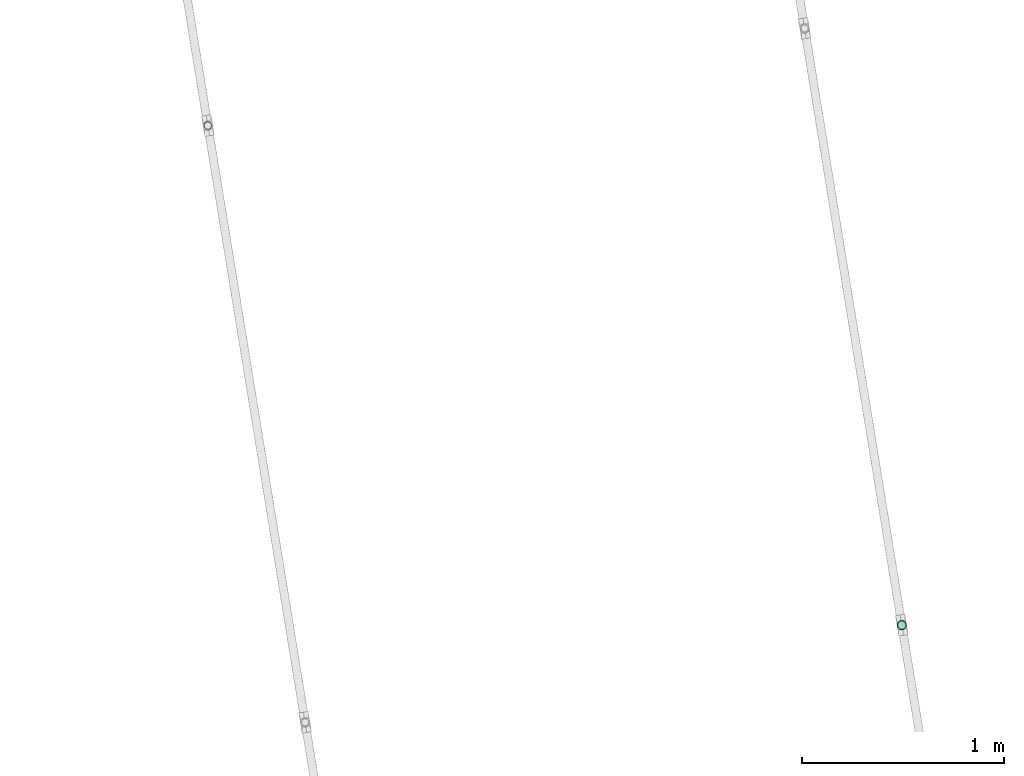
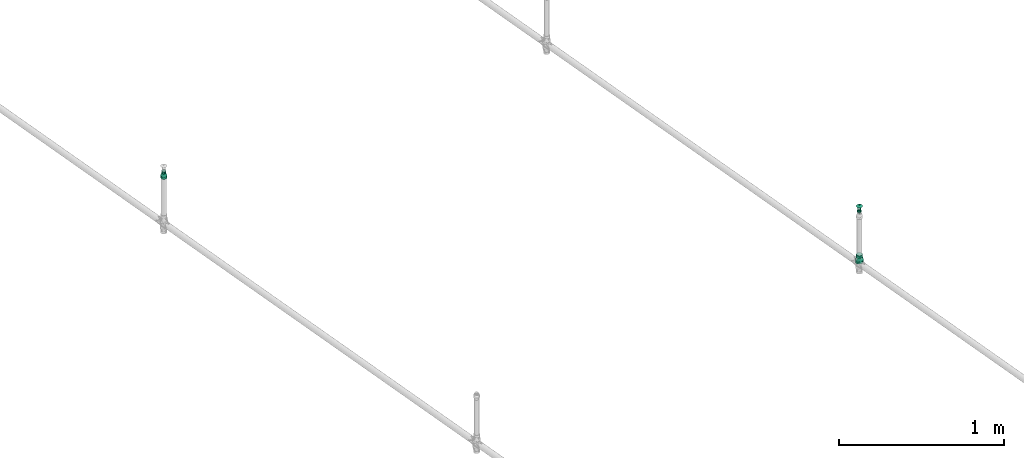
# One storey, part 42 of 56: 2 flow fittings, 1 flow terminal.
"""IFC2X3 building model written with IfcOpenShell, lengths in millimetres."""

from ifc_helpers import new_model, entity, si_unit, converted_unit, derived_unit, direction, frame, origin, origin_with_axes, place, context, subcontext, project, spatial, faceted_brep, source, transform, mapped, material, type_object, element, save


model = new_model("IFC2X3")

# Units and contexts
model_context = context("Model", 3, precision=0.01, world=origin(), true_north=direction((6.12323399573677e-17, 1.0)))
plan_context = context("Plan", 3, precision=1e-05, world=origin_with_axes())
body_context = subcontext(model_context, "Body", "Model", "MODEL_VIEW")
ifc_project = project(units=[converted_unit("PLANEANGLEUNIT", "DEGREE", entity("IfcPositiveLengthMeasure", 0.0174532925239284), si_unit("PLANEANGLEUNIT", "RADIAN"), dimensions=[0, 0, 0, 0, 0, 0, 0]), si_unit("AREAUNIT", "SQUARE_METRE"), si_unit("LENGTHUNIT", "METRE", prefix="MILLI"), si_unit("MASSUNIT", "GRAM", prefix="KILO"), si_unit("POWERUNIT", "WATT"), si_unit("PRESSUREUNIT", "PASCAL", prefix="KILO"), si_unit("FORCEUNIT", "NEWTON", prefix="KILO"), si_unit("ELECTRICVOLTAGEUNIT", "VOLT"), si_unit("ELECTRICCURRENTUNIT", "AMPERE"), si_unit("THERMODYNAMICTEMPERATUREUNIT", "DEGREE_CELSIUS"), si_unit("TIMEUNIT", "SECOND"), si_unit("VOLUMEUNIT", "CUBIC_METRE"), derived_unit("LINEARVELOCITYUNIT", [(si_unit("LENGTHUNIT", "METRE"), 1), (si_unit("TIMEUNIT", "SECOND"), -1)]), derived_unit("VOLUMETRICFLOWRATEUNIT", [(si_unit("VOLUMEUNIT", "CUBIC_METRE"), 1), (si_unit("TIMEUNIT", "SECOND"), -1)]), derived_unit("THERMALTRANSMITTANCEUNIT", [(si_unit("POWERUNIT", "WATT"), 1), (si_unit("THERMODYNAMICTEMPERATUREUNIT", "KELVIN"), -1), (si_unit("AREAUNIT", "SQUARE_METRE"), -1)]), derived_unit("SOUNDPRESSUREUNIT", [(si_unit("PRESSUREUNIT", "PASCAL"), 1)])], contexts=[model_context, plan_context])

# Site, building, storey
site_placement = place(None, frame((-3.09682673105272e-06, 1.93776733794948e-05, 0.0), z_axis=(0.0, 0.0, 1.0), x_axis=(-0.160806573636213, 0.986985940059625, 0.0)))
site = spatial("IfcSite", under=ifc_project, at=site_placement, Name="Default", CompositionType="ELEMENT")
building_placement = place(site_placement, frame((0.0, 0.0, 0.0), z_axis=(0.0, 0.0, 1.0), x_axis=(1.0, -2.77555756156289e-17, 0.0)))
building = spatial("IfcBuilding", under=site, at=building_placement, Name="Bygning (endres i Project Information)", CompositionType="ELEMENT")
storey_placement = place(building_placement, frame((0.0, 0.0, 51360.0000000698), z_axis=(0.0, 0.0, 1.0), x_axis=(1.0, -2.77555756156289e-17, 0.0)))
storey = spatial("IfcBuildingStorey", under=building, at=storey_placement, Name="H01-Nivå D+0,36", CompositionType="ELEMENT", Elevation=51360.0000000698)

# Flow fittings
ifc_material = material(Name="3320.001")
pipe_fitting_type_1 = type_object("IfcPipeFittingType", Name="RS_53_PIF_UN_Reducing-Socket-EN10241_MC_gen:RS_53_PIF_UN_Reducing-Socket-EN10241_MC_gen", PredefinedType="NOTDEFINED", material=ifc_material)
shared_shape_1 = source(origin(), body_context, "Body", "Brep", [
    faceted_brep([(0.0, 5.11167614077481, 19.0770350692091), (0.0, 9.87500000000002, 17.1040017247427), (0.0, 13.9653589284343, 13.9653589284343), (0.0, 17.1040017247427, 9.87499999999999), (0.0, 19.0770350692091, 5.11167614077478), (0.0, 19.75, 0.0), (0.0, 19.0770350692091, -5.1116761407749), (0.0, 17.1040017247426, -9.8750000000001), (0.0, 13.9653589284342, -13.9653589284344), (0.0, 9.87499999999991, -17.1040017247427), (0.0, 5.11167614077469, -19.0770350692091), (0.0, 0.0, -19.75), (0.0, -5.11167614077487, -19.0770350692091), (0.0, -9.87500000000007, -17.1040017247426), (0.0, -13.9653589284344, -13.9653589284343), (0.0, -17.1040017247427, -9.87499999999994), (0.0, -19.0770350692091, -5.11167614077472), (0.0, -19.75, 0.0), (0.0, -19.0770350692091, 5.11167614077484), (0.0, -17.1040017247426, 9.87500000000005), (0.0, -13.9653589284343, 13.9653589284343), (0.0, -9.87499999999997, 17.1040017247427), (0.0, -5.11167614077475, 19.0770350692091), (0.0, 0.0, 19.75), (17.0, -6.65118285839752, -18.277344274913), (17.0, -15.1289479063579, -12.6955675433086), (17.0, -16.8438814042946, -9.72538978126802), (17.0, -18.5588149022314, -6.7552120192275), (17.0, -9.87413131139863, -17.1045032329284), (17.0, -12.5015396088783, -14.9000353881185), (17.0, -19.1544074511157, -3.37760600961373), (17.0, -3.42823440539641, -19.4501853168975), (17.0, 3.43119786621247, -19.4496627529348), (17.0, 0.0014817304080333, -19.4499240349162), (17.0, -19.75, 0.0), (17.0, 6.65396758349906, -18.2763306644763), (17.0, 9.87673730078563, -17.1029985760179), (17.0, 18.5598439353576, -6.75238425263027), (17.0, 16.8453630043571, -9.7228232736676), (17.0, 15.1308820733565, -12.6932622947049), (17.0, 12.5038096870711, -14.8981304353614), (17.0, 19.75, 0.0), (17.0, 15.1308820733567, 12.6932622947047), (17.0, 16.8453630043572, 9.72282327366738), (17.0, 18.5598439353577, 6.75238425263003), (17.0, 9.87673730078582, 17.1029985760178), (17.0, 12.5038096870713, 14.8981304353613), (17.0, 3.43119786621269, 19.4496627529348), (17.0, 6.65396758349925, 18.2763306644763), (17.0, -3.4282344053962, 19.4501853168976), (17.0, 0.00148173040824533, 19.4499240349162), (17.0, -15.1289479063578, 12.6955675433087), (17.0, -6.65118285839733, 18.277344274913), (17.0, -9.87413131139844, 17.1045032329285), (17.0, -12.5015396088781, 14.9000353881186), (17.0, -19.1544074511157, 3.37760600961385), (17.0, -18.5588149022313, 6.75521201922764), (17.0, -16.8438814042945, 9.72538978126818), (34.0, 13.5000000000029, 0.0), (34.0, 12.6868795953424, -4.61444320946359), (34.0, -4.54589529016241, -12.4935366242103), (34.0, -2.34276817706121, -13.2951659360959), (34.0, 6.75195505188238, -11.6902139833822), (34.0, 0.00166747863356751, -13.2948718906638), (34.0, 2.34610313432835, -13.2945778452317), (34.0, 10.3432928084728, -8.67561489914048), (34.0, 8.54762393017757, -10.1829144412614), (34.0, 4.54902909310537, -12.492395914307), (34.0, 11.5150862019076, -6.64502905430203), (34.0, -6.74902240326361, -11.6919073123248), (34.0, -13.4999999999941, 0.0), (34.0, -13.0928608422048, -2.30881275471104), (34.0, -10.3411162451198, -8.6782091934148), (34.0, -8.54506932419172, -10.1850582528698), (34.0, -12.6857216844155, -4.61762550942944), (34.0, -11.5134189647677, -6.64791735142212), (34.0, -13.0928608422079, 2.30881275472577), (34.0, -12.6857216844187, 4.6176255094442), (34.0, 2.34610313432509, 13.2945778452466), (34.0, 4.54902909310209, 12.4923959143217), (34.0, -10.3411162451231, 8.67820919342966), (34.0, 0.00166747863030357, 13.2948718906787), (34.0, -6.74902240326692, 11.6919073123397), (34.0, -8.54506932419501, 10.1850582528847), (34.0, -11.5134189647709, 6.64791735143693), (34.0, -2.34276817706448, 13.2951659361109), (34.0, -4.5458952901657, 12.4935366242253), (34.0, 12.6868795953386, 4.61444320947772), (34.0, 11.5150862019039, 6.64502905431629), (34.0, 10.3432928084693, 8.67561489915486), (34.0, 6.7519550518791, 11.6902139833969), (34.0, 8.54762393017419, 10.1829144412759), (51.0, 3.49405710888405, -13.0399986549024), (51.0, 6.75000000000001, -11.6913429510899), (51.0, 9.5459415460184, -9.54594154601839), (51.0, 11.6913429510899, -6.74999999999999), (51.0, 13.0399986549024, -3.49405710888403), (51.0, 13.5, 0.0), (51.0, 13.0399986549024, 3.49405710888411), (51.0, 11.6913429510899, 6.75000000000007), (51.0, 9.54594154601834, 9.54594154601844), (51.0, 6.74999999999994, 11.69134295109), (51.0, 3.49405710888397, 13.0399986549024), (51.0, 0.0, 13.5), (51.0, -3.49405710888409, 13.0399986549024), (51.0, -6.75000000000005, 11.6913429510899), (51.0, -9.54594154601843, 9.54594154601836), (51.0, -11.6913429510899, 6.74999999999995), (51.0, -13.0399986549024, 3.49405710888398), (51.0, -13.5, 0.0), (51.0, -13.0399986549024, -3.49405710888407), (51.0, -11.6913429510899, -6.75000000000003), (51.0, -9.54594154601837, -9.54594154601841), (51.0, -6.74999999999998, -11.6913429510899), (51.0, -3.49405710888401, -13.0399986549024), (51.0, 0.0, -13.5)], [[[0, 1, 2, 3, 4, 5, 6, 7, 8, 9, 10, 11, 12, 13, 14, 15, 16, 17, 18, 19, 20, 21, 22, 23]], [[24, 13, 12]], [[15, 14, 25]], [[15, 25, 26, 27]], [[28, 29, 13]], [[16, 27, 30]], [[30, 17, 16]], [[15, 27, 16]], [[12, 31, 24]], [[25, 14, 29]], [[11, 32, 33, 31]], [[24, 28, 13]], [[13, 29, 14]], [[30, 34, 17]], [[32, 11, 10]], [[35, 9, 36]], [[7, 37, 38, 39]], [[9, 35, 10]], [[7, 6, 37]], [[8, 39, 40]], [[32, 10, 35]], [[7, 39, 8]], [[40, 36, 9]], [[6, 41, 37]], [[6, 5, 41]], [[11, 31, 12]], [[40, 9, 8]], [[41, 5, 4]], [[3, 2, 42]], [[3, 42, 43, 44]], [[45, 46, 1]], [[44, 41, 4]], [[0, 47, 48]], [[42, 2, 46]], [[23, 49, 50, 47]], [[1, 46, 2]], [[49, 23, 22]], [[19, 51, 20]], [[52, 21, 53]], [[3, 44, 4]], [[48, 45, 1]], [[54, 53, 21]], [[17, 34, 55]], [[21, 52, 22]], [[20, 51, 54]], [[49, 22, 52]], [[48, 1, 0]], [[17, 55, 18]], [[56, 19, 18]], [[18, 55, 56]], [[54, 21, 20]], [[57, 51, 19, 56]], [[23, 47, 0]], [[41, 58, 59]], [[60, 31, 61]], [[40, 62, 36]], [[63, 32, 64]], [[65, 39, 38]], [[64, 32, 35]], [[61, 33, 63]], [[37, 41, 59]], [[62, 40, 66]], [[40, 39, 66]], [[35, 36, 67]], [[65, 38, 68]], [[37, 68, 38]], [[64, 35, 67]], [[61, 31, 33]], [[69, 28, 24]], [[69, 24, 60]], [[70, 30, 71]], [[72, 29, 73]], [[30, 70, 34]], [[74, 27, 26]], [[68, 37, 59]], [[72, 25, 29]], [[27, 74, 71]], [[31, 60, 24]], [[29, 28, 73]], [[75, 26, 25]], [[67, 36, 62]], [[66, 39, 65]], [[27, 71, 30]], [[74, 26, 75]], [[73, 28, 69]], [[63, 33, 32]], [[75, 25, 72]], [[56, 76, 77]], [[48, 78, 79]], [[54, 51, 80]], [[81, 47, 50]], [[57, 56, 77]], [[52, 53, 82]], [[82, 53, 83]], [[55, 70, 76]], [[70, 55, 34]], [[84, 51, 57]], [[50, 85, 81]], [[56, 55, 76]], [[86, 49, 52]], [[83, 53, 54]], [[81, 78, 47]], [[48, 47, 78]], [[80, 51, 84]], [[49, 85, 50]], [[87, 44, 88]], [[87, 58, 41]], [[43, 42, 89]], [[57, 77, 84]], [[46, 45, 90]], [[85, 49, 86]], [[88, 44, 43]], [[54, 80, 83]], [[91, 42, 46]], [[52, 82, 86]], [[89, 42, 91]], [[87, 41, 44]], [[90, 45, 79]], [[46, 90, 91]], [[79, 45, 48]], [[43, 89, 88]], [[92, 93, 94, 95, 96, 97, 98, 99, 100, 101, 102, 103, 104, 105, 106, 107, 108, 109, 110, 111, 112, 113, 114, 115]], [[58, 97, 96]], [[95, 94, 65]], [[95, 65, 68, 59]], [[62, 66, 93]], [[59, 58, 96]], [[92, 64, 67]], [[65, 94, 66]], [[115, 61, 63, 64]], [[93, 66, 94]], [[67, 93, 92]], [[67, 62, 93]], [[95, 59, 96]], [[114, 61, 115]], [[111, 110, 74]], [[73, 113, 112]], [[109, 71, 110]], [[111, 74, 75, 72]], [[109, 70, 71]], [[60, 61, 114]], [[113, 69, 60]], [[111, 72, 112]], [[113, 60, 114]], [[112, 72, 73]], [[115, 64, 92]], [[71, 74, 110]], [[73, 69, 113]], [[86, 105, 104]], [[107, 106, 80]], [[107, 80, 84, 77]], [[82, 83, 105]], [[108, 77, 76]], [[76, 70, 109]], [[76, 109, 108]], [[104, 85, 86]], [[80, 106, 83]], [[103, 78, 81, 85]], [[91, 101, 100]], [[105, 83, 106]], [[86, 82, 105]], [[78, 103, 102]], [[79, 101, 90]], [[99, 87, 88, 89]], [[101, 79, 102]], [[99, 98, 87]], [[100, 89, 91]], [[78, 102, 79]], [[103, 85, 104]], [[99, 89, 100]], [[98, 58, 87]], [[107, 77, 108]], [[98, 97, 58]], [[91, 90, 101]]]),
])
flow_fitting_1_placement = place(storey_placement, frame((1000236.26325463, -392286.663841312, 3707.99999993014), z_axis=(2.77555756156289e-17, 1.0, 0.0), x_axis=(0.0, 0.0, 1.0)))
element("IfcFlowFitting", 1, at=flow_fitting_1_placement, inside=storey, type_object=pipe_fitting_type_1, material=ifc_material, Name="RS_53_PIF_UN_Reducing-Socket-EN10241_MC_gen:RS_53_PIF_UN_Reducing-Socket-EN10241_MC_gen", ObjectType="RS_53_PIF_UN_Reducing-Socket-EN10241_MC_gen:RS_53_PIF_UN_Reducing-Socket-EN10241_MC_gen", context=body_context, shape_type="MappedRepresentation", body=[
    mapped(shared_shape_1, transform((0.0, 0.0, 0.0), scale=1.0)),
])
pipe_fitting_type_2 = type_object("IfcPipeFittingType", Name="RS_53_PIF_UN_Reducing-Socket-EN10241_MC_gen:RS_53_PIF_UN_Reducing-Socket-EN10241_MC_gen", PredefinedType="NOTDEFINED", material=ifc_material)
shared_shape_2 = source(origin(), body_context, "Body", "Brep", [
    faceted_brep([(0.0, 0.0, 24.5), (0.0, 6.34106660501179, 23.6651827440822), (0.0, 12.25, 21.2176223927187), (0.0, 17.3241161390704, 17.3241161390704), (0.0, 21.2176223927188, 12.25), (0.0, 23.6651827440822, 6.34106660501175), (0.0, 24.5, 0.0), (0.0, 23.6651827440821, -6.34106660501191), (0.0, 21.2176223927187, -12.2500000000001), (0.0, 17.3241161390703, -17.3241161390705), (0.0, 12.2499999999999, -21.2176223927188), (0.0, 6.34106660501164, -23.6651827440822), (0.0, 0.0, -24.5), (0.0, -6.34106660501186, -23.6651827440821), (0.0, -12.2500000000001, -21.2176223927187), (0.0, -17.3241161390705, -17.3241161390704), (0.0, -21.2176223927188, -12.2499999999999), (0.0, -23.6651827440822, -6.34106660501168), (0.0, -24.5, 0.0), (0.0, -23.6651827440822, 6.34106660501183), (0.0, -21.2176223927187, 12.2500000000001), (0.0, -17.3241161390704, 17.3241161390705), (0.0, -12.25, 21.2176223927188), (0.0, -6.34106660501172, 23.6651827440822), (18.6666666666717, -8.25137606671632, -22.6729794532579), (18.6666666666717, -18.7677686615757, -15.7486780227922), (18.6666666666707, -20.8950763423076, -12.0642027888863), (18.6666666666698, -23.0223840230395, -8.37972755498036), (18.6666666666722, -12.2493529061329, -21.2179959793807), (18.6666666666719, -15.5085607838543, -18.4833370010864), (18.6666666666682, -23.7125607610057, -4.46565710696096), (18.6666666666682, -23.7611920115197, -4.18986377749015), (18.6666666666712, -4.25339922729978, -24.1279629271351), (18.6666666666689, 4.25560674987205, -24.1275736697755), (18.6666666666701, 0.00110376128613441, -24.1277682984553), (18.6666666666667, -24.5, 0.0), (18.6666666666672, 8.25345045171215, -22.6722244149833), (18.6666666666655, 12.2512941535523, -21.2168751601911), (18.6666666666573, 23.0231506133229, -8.37762113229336), (18.6666666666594, 20.8961800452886, -12.062290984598), (18.6666666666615, 18.7692094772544, -15.7469608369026), (18.6666666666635, 15.5102518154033, -18.4819179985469), (18.6666666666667, 24.5, 0.0), (18.6666666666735, 18.7692094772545, 15.7469608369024), (18.666666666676, 20.8961800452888, 12.0622909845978), (18.6666666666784, 23.023150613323, 8.3776211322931), (18.6666666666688, 12.2512941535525, 21.216875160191), (18.6666666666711, 15.5102518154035, 18.4819179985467), (18.6666666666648, 4.25560674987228, 24.1275736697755), (18.6666666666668, 8.25345045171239, 22.6722244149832), (18.6666666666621, -4.25339922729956, 24.1279629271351), (18.6666666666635, 0.00110376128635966, 24.1277682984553), (18.6666666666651, -23.7611920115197, 4.1898637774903), (18.6666666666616, -8.25137606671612, 22.672979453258), (18.666666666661, -12.2493529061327, 21.2179959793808), (18.6666666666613, -15.5085607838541, 18.4833370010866), (18.6666666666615, -18.7677686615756, 15.7486780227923), (18.6666666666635, -23.0223840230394, 8.37972755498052), (18.6666666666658, -23.7125607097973, 4.46565739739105), (18.6666666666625, -20.8950763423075, 12.0642027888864), (37.3333333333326, 19.750000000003, 0.0), (37.3333333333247, 18.5595959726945, -6.75306577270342), (37.3333333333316, 9.87626627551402, -17.1032705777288), (37.3333333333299, 12.5033702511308, -14.8985095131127), (37.3333333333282, 15.1304742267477, -12.6937484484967), (37.3333333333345, 3.43075149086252, -19.4497414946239), (37.333333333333, 6.65350888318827, -18.2765060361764), (37.3333333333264, 16.8450350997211, -9.72340711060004), (37.3333333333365, -3.42859151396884, -19.4501223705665), (37.3333333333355, 0.00107998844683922, -19.4499319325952), (37.3333333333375, -9.87436684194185, -17.1043672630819), (37.333333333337, -6.65147917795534, -18.2772448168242), (37.3333333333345, -19.1544229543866, -3.37756341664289), (37.3333333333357, -18.558845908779, -6.75512683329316), (37.3333333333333, -19.7499999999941, 0.0), (37.3333333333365, -16.8439551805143, -9.72527774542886), (37.3333333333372, -15.1290644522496, -12.6954286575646), (37.3333333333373, -12.5017156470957, -14.8998979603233), (37.3333333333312, -18.5588459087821, 6.755126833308), (37.3333333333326, -19.1544229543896, 3.37756341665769), (37.3333333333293, -15.1290644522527, 12.6954286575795), (37.3333333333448, 18.559595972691, 6.75306577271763), (37.3333333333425, 16.8450350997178, 9.72340711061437), (37.3333333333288, -9.87436684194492, 17.104367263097), (37.3333333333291, -12.5017156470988, 14.8998979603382), (37.3333333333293, -6.65147917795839, 18.2772448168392), (37.3333333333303, -16.8439551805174, 9.72527774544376), (37.333333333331, 0.00107998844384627, 19.4499319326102), (37.3333333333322, 3.43075149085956, 19.4497414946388), (37.3333333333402, 15.1304742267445, 12.6937484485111), (37.333333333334, 6.65350888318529, 18.2765060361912), (37.3333333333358, 9.87626627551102, 17.1032705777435), (37.333333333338, 12.5033702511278, 14.8985095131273), (37.3333333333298, -3.42859151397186, 19.4501223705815), (56.0, 5.11167614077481, -19.0770350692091), (56.0, 9.87500000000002, -17.1040017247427), (56.0, 13.9653589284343, -13.9653589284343), (56.0, 17.1040017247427, -9.87499999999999), (56.0, 19.0770350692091, -5.11167614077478), (56.0, 19.75, 0.0), (56.0, 19.0770350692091, 5.1116761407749), (56.0, 17.1040017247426, 9.8750000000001), (56.0, 13.9653589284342, 13.9653589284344), (56.0, 9.87499999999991, 17.1040017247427), (56.0, 5.11167614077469, 19.0770350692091), (56.0, 0.0, 19.75), (56.0, -5.11167614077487, 19.0770350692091), (56.0, -9.87500000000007, 17.1040017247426), (56.0, -13.9653589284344, 13.9653589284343), (56.0, -17.1040017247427, 9.87499999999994), (56.0, -19.0770350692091, 5.11167614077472), (56.0, -19.75, 0.0), (56.0, -19.0770350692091, -5.11167614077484), (56.0, -17.1040017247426, -9.87500000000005), (56.0, -13.9653589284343, -13.9653589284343), (56.0, -9.87499999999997, -17.1040017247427), (56.0, -5.11167614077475, -19.0770350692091), (56.0, 0.0, -19.75)], [[[0, 1, 2, 3, 4, 5, 6, 7, 8, 9, 10, 11, 12, 13, 14, 15, 16, 17, 18, 19, 20, 21, 22, 23]], [[24, 14, 13]], [[16, 15, 25]], [[16, 25, 26, 27]], [[28, 29, 14]], [[17, 27, 30, 31]], [[31, 18, 17]], [[16, 27, 17]], [[13, 32, 24]], [[25, 15, 29]], [[12, 33, 34, 32]], [[24, 28, 14]], [[14, 29, 15]], [[31, 35, 18]], [[33, 12, 11]], [[36, 10, 37]], [[8, 38, 39, 40]], [[10, 36, 11]], [[8, 7, 38]], [[9, 40, 41]], [[33, 11, 36]], [[8, 40, 9]], [[41, 37, 10]], [[7, 42, 38]], [[7, 6, 42]], [[12, 32, 13]], [[41, 10, 9]], [[42, 6, 5]], [[4, 3, 43]], [[4, 43, 44, 45]], [[46, 47, 2]], [[45, 42, 5]], [[1, 48, 49]], [[43, 3, 47]], [[0, 50, 51, 48]], [[2, 47, 3]], [[50, 0, 23]], [[0, 48, 1]], [[18, 52, 19]], [[53, 22, 54]], [[49, 2, 1]], [[55, 22, 21]], [[35, 52, 18]], [[4, 45, 5]], [[22, 53, 23]], [[21, 56, 55]], [[50, 23, 53]], [[49, 46, 2]], [[20, 56, 21]], [[57, 20, 19]], [[19, 52, 58, 57]], [[55, 54, 22]], [[59, 56, 20, 57]], [[42, 60, 61]], [[41, 62, 37]], [[63, 40, 64]], [[40, 39, 64]], [[33, 36, 65]], [[65, 36, 66]], [[38, 42, 61]], [[64, 39, 67]], [[41, 40, 63]], [[36, 37, 66]], [[62, 41, 63]], [[38, 67, 39]], [[68, 34, 69]], [[68, 32, 34]], [[24, 70, 28]], [[32, 68, 71]], [[72, 35, 31, 30]], [[73, 27, 26]], [[72, 74, 35]], [[26, 75, 73]], [[76, 25, 29]], [[29, 77, 76]], [[70, 24, 71]], [[24, 32, 71]], [[70, 77, 28]], [[76, 75, 25]], [[28, 77, 29]], [[25, 75, 26]], [[73, 30, 27]], [[30, 73, 72]], [[66, 37, 62]], [[69, 34, 33]], [[69, 33, 65]], [[67, 38, 61]], [[78, 58, 79]], [[80, 55, 56]], [[81, 45, 82]], [[78, 59, 57]], [[83, 53, 54]], [[55, 80, 84]], [[79, 58, 52, 35]], [[78, 57, 58]], [[84, 54, 55]], [[85, 50, 53]], [[79, 35, 74]], [[86, 56, 59]], [[84, 83, 54]], [[48, 87, 88]], [[49, 48, 88]], [[59, 78, 86]], [[53, 83, 85]], [[87, 48, 51]], [[81, 60, 42]], [[44, 43, 89]], [[90, 46, 49]], [[47, 46, 91]], [[86, 80, 56]], [[82, 45, 44]], [[49, 88, 90]], [[92, 43, 47]], [[91, 46, 90]], [[51, 50, 93]], [[42, 45, 81]], [[85, 93, 50]], [[44, 89, 82]], [[51, 93, 87]], [[47, 91, 92]], [[89, 43, 92]], [[94, 95, 96, 97, 98, 99, 100, 101, 102, 103, 104, 105, 106, 107, 108, 109, 110, 111, 112, 113, 114, 115, 116, 117]], [[60, 99, 98]], [[97, 96, 64]], [[97, 64, 67, 61]], [[62, 63, 95]], [[61, 60, 98]], [[94, 65, 66]], [[64, 96, 63]], [[117, 68, 69, 65]], [[95, 63, 96]], [[117, 116, 68]], [[77, 70, 115]], [[66, 95, 94]], [[115, 70, 71]], [[113, 112, 73]], [[115, 71, 116]], [[117, 65, 94]], [[97, 61, 98]], [[72, 111, 74]], [[71, 68, 116]], [[113, 76, 114]], [[114, 76, 77]], [[77, 115, 114]], [[113, 73, 75, 76]], [[111, 72, 112]], [[66, 62, 95]], [[72, 73, 112]], [[85, 107, 106]], [[109, 108, 80]], [[109, 80, 86, 78]], [[83, 84, 107]], [[110, 78, 79]], [[79, 111, 110]], [[109, 78, 110]], [[106, 93, 85]], [[80, 108, 84]], [[105, 88, 87, 93]], [[85, 83, 107]], [[107, 84, 108]], [[79, 74, 111]], [[88, 105, 104]], [[90, 103, 91]], [[101, 81, 82, 89]], [[103, 90, 104]], [[101, 100, 81]], [[102, 89, 92]], [[88, 104, 90]], [[101, 89, 102]], [[92, 91, 103]], [[100, 60, 81]], [[100, 99, 60]], [[105, 93, 106]], [[92, 103, 102]]]),
])
flow_fitting_2_placement = place(storey_placement, frame((997236.26325463, -395286.663841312, 3380.93333333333), z_axis=(2.77555756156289e-17, 1.0, 0.0), x_axis=(0.0, 0.0, 1.0)))
element("IfcFlowFitting", 2, at=flow_fitting_2_placement, inside=storey, type_object=pipe_fitting_type_2, material=ifc_material, Name="RS_53_PIF_UN_Reducing-Socket-EN10241_MC_gen:RS_53_PIF_UN_Reducing-Socket-EN10241_MC_gen", ObjectType="RS_53_PIF_UN_Reducing-Socket-EN10241_MC_gen:RS_53_PIF_UN_Reducing-Socket-EN10241_MC_gen", context=body_context, shape_type="MappedRepresentation", body=[
    mapped(shared_shape_2, transform((0.0, 0.0, 0.0), scale=1.0)),
])

# Flow terminal
fire_suppression_terminal_type = type_object("IfcFireSuppressionTerminalType", Name="SU-15-K80-68DGR-STD:SU-15-K80-68DGR-STD", PredefinedType="NOTDEFINED", material=ifc_material)
shared_shape_3 = source(origin(), body_context, "Body", "Brep", [
    faceted_brep([(-2.5, 0.0, 62.0), (0.0, -2.5, 62.0), (2.5, 0.0, 62.0), (0.0, 2.5, 62.0), (-2.5, 0.0, 59.0), (0.0, 2.5, 59.0), (2.5, 0.0, 59.0), (0.0, -2.5, 59.0)], [[[0, 1, 2, 3]], [[4, 5, 6, 7]], [[0, 4, 7, 1]], [[7, 6, 2, 1]], [[2, 6, 5, 3]], [[5, 4, 0, 3]]]),
    faceted_brep([(1.0, -13.5, 47.0), (1.0, -13.5, 19.0), (1.0, -8.5, 19.0), (1.0, -8.5, 42.0), (1.0, 8.5, 42.0), (1.0, 8.5, 19.0), (1.0, 13.5, 19.0), (1.0, 13.5, 47.0), (-1.0, -13.5, 47.0), (-1.0, 13.5, 47.0), (-1.0, 13.5, 19.0), (-1.0, 8.5, 19.0), (-1.0, 8.5, 42.0), (-1.0, -8.5, 42.0), (-1.0, -8.5, 19.0), (-1.0, -13.5, 19.0)], [[[0, 1, 2, 3, 4, 5, 6, 7]], [[8, 9, 10, 11, 12, 13, 14, 15]], [[1, 0, 8, 15]], [[2, 1, 15, 14]], [[3, 2, 14, 13]], [[4, 3, 13, 12]], [[5, 4, 12, 11]], [[6, 5, 11, 10]], [[7, 6, 10, 9]], [[0, 7, 9, 8]]]),
    faceted_brep([(-13.5, 1.0, 47.0), (13.5, 1.0, 47.0), (13.5, 1.0, 19.0), (8.5, 1.0, 19.0), (8.5, 1.0, 42.0), (-8.5, 1.0, 42.0), (-8.5, 1.0, 19.0), (-13.5, 1.0, 19.0), (-13.5, -1.0, 47.0), (-13.5, -1.0, 19.0), (-8.5, -1.0, 19.0), (-8.5, -1.0, 42.0), (8.5, -1.0, 42.0), (8.5, -1.0, 19.0), (13.5, -1.0, 19.0), (13.5, -1.0, 47.0)], [[[0, 1, 2, 3, 4, 5, 6, 7]], [[8, 9, 10, 11, 12, 13, 14, 15]], [[1, 0, 8, 15]], [[2, 1, 15, 14]], [[3, 2, 14, 13]], [[4, 3, 13, 12]], [[5, 4, 12, 11]], [[6, 5, 11, 10]], [[7, 6, 10, 9]], [[0, 7, 9, 8]]]),
    faceted_brep([(0.0, 2.5, 59.0), (-2.5, 0.0, 59.0), (0.0, -2.5, 59.0), (2.5, 0.0, 59.0), (6.4893568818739, 19.9721868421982, 53.0), (16.9893568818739, 12.3434902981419, 53.0), (21.0, 0.0, 53.0), (16.989356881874, -12.3434902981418, 53.0), (6.48935688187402, -19.9721868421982, 53.0), (-6.48935688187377, -19.9721868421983, 53.0), (-16.9893568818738, -12.343490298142, 53.0), (-21.0, 0.0, 53.0), (-16.9893568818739, 12.3434902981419, 53.0), (-6.48935688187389, 19.9721868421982, 53.0)], [[[0, 1, 2, 3]], [[4, 5, 6, 7, 8, 9, 10, 11, 12, 13]], [[6, 3, 7]], [[2, 8, 7]], [[7, 3, 2]], [[2, 1, 10]], [[2, 10, 9]], [[10, 1, 11]], [[2, 9, 8]], [[11, 1, 12]], [[0, 13, 12]], [[12, 1, 0]], [[0, 3, 5]], [[0, 5, 4]], [[5, 3, 6]], [[0, 4, 13]]]),
    faceted_brep([(-2.5, 0.0, 53.0), (0.0, -2.5, 53.0), (2.5, 0.0, 53.0), (0.0, 2.5, 53.0), (-2.5, 0.0, 19.0), (0.0, 2.5, 19.0), (2.5, 0.0, 19.0), (0.0, -2.5, 19.0)], [[[0, 1, 2, 3]], [[4, 5, 6, 7]], [[0, 4, 7, 1]], [[7, 6, 2, 1]], [[2, 6, 5, 3]], [[5, 4, 0, 3]]]),
    faceted_brep([(3.62346663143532, -13.5229615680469, 19.0), (7.0, -12.1243556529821, 19.0), (9.89949493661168, -9.89949493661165, 19.0), (12.1243556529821, -7.0, 19.0), (13.522961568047, -3.62346663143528, 19.0), (14.0, 0.0, 19.0), (13.522961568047, 3.62346663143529, 19.0), (12.1243556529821, 7.0, 19.0), (9.89949493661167, 9.89949493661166, 19.0), (7.0, 12.1243556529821, 19.0), (3.62346663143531, 13.522961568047, 19.0), (0.0, 14.0, 19.0), (-3.62346663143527, 13.522961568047, 19.0), (-7.0, 12.1243556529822, 19.0), (-9.89949493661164, 9.89949493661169, 19.0), (-12.1243556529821, 7.0, 19.0), (-13.5229615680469, 3.62346663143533, 19.0), (-14.0, 0.0, 19.0), (-13.5229615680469, -3.62346663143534, 19.0), (-12.1243556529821, -7.0, 19.0), (-9.89949493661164, -9.89949493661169, 19.0), (-7.0, -12.1243556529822, 19.0), (-3.62346663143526, -13.522961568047, 19.0), (0.0, -14.0, 19.0), (9.89949493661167, 9.89949493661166, 13.0), (12.1243556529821, 7.0, 13.0), (13.522961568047, 3.62346663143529, 13.0), (14.0, 0.0, 13.0), (13.522961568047, -3.62346663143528, 13.0), (12.1243556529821, -7.0, 13.0), (9.89949493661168, -9.89949493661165, 13.0), (7.0, -12.1243556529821, 13.0), (3.62346663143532, -13.5229615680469, 13.0), (0.0, -14.0, 13.0), (-3.62346663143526, -13.522961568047, 13.0), (-7.0, -12.1243556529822, 13.0), (-9.89949493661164, -9.89949493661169, 13.0), (-12.1243556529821, -7.0, 13.0), (-13.5229615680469, -3.62346663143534, 13.0), (-14.0, 0.0, 13.0), (-13.5229615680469, 3.62346663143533, 13.0), (-12.1243556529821, 7.0, 13.0), (-9.89949493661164, 9.89949493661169, 13.0), (-7.0, 12.1243556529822, 13.0), (-3.62346663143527, 13.522961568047, 13.0), (0.0, 14.0, 13.0), (3.62346663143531, 13.522961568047, 13.0), (7.0, 12.1243556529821, 13.0)], [[[0, 1, 2, 3, 4, 5, 6, 7, 8, 9, 10, 11, 12, 13, 14, 15, 16, 17, 18, 19, 20, 21, 22, 23]], [[24, 25, 26, 27, 28, 29, 30, 31, 32, 33, 34, 35, 36, 37, 38, 39, 40, 41, 42, 43, 44, 45, 46, 47]], [[38, 18, 17, 39]], [[37, 19, 18, 38]], [[21, 20, 36, 35]], [[37, 36, 20, 19]], [[22, 21, 35, 34]], [[23, 22, 34, 33]], [[32, 0, 23, 33]], [[31, 1, 0, 32]], [[3, 2, 30, 29]], [[31, 30, 2, 1]], [[4, 3, 29, 28]], [[5, 4, 28, 27]], [[26, 6, 5, 27]], [[25, 7, 6, 26]], [[9, 8, 24, 47]], [[25, 24, 8, 7]], [[10, 9, 47, 46]], [[11, 10, 46, 45]], [[44, 12, 11, 45]], [[43, 13, 12, 44]], [[15, 14, 42, 41]], [[43, 42, 14, 13]], [[16, 15, 41, 40]], [[17, 16, 40, 39]]]),
    faceted_brep([(1.94114283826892, -7.24444369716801, 13.0), (3.75000000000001, -6.49519052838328, 13.0), (5.30330085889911, -5.3033008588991, 13.0), (6.49519052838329, -3.75, 13.0), (7.24444369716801, -1.9411428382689, 13.0), (7.5, 0.0, 13.0), (7.24444369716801, 1.9411428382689, 13.0), (6.49519052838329, 3.75, 13.0), (5.30330085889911, 5.3033008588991, 13.0), (3.75000000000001, 6.49519052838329, 13.0), (1.94114283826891, 7.24444369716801, 13.0), (0.0, 7.5, 13.0), (-1.94114283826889, 7.24444369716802, 13.0), (-3.74999999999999, 6.4951905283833, 13.0), (-5.3033008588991, 5.30330085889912, 13.0), (-6.49519052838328, 3.75000000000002, 13.0), (-7.24444369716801, 1.94114283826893, 13.0), (-7.5, 0.0, 13.0), (-7.244443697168, -1.94114283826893, 13.0), (-6.49519052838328, -3.75000000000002, 13.0), (-5.30330085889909, -5.30330085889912, 13.0), (-3.74999999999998, -6.4951905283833, 13.0), (-1.94114283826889, -7.24444369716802, 13.0), (0.0, -7.5, 13.0), (5.30330085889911, 5.3033008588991, 0.0), (6.49519052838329, 3.75, 0.0), (7.24444369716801, 1.9411428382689, 0.0), (7.5, 0.0, 0.0), (7.24444369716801, -1.9411428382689, 0.0), (6.49519052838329, -3.75, 0.0), (5.30330085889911, -5.3033008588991, 0.0), (3.75000000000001, -6.49519052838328, 0.0), (1.94114283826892, -7.24444369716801, 0.0), (0.0, -7.5, 0.0), (-1.94114283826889, -7.24444369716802, 0.0), (-3.74999999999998, -6.4951905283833, 0.0), (-5.30330085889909, -5.30330085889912, 0.0), (-6.49519052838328, -3.75000000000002, 0.0), (-7.244443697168, -1.94114283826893, 0.0), (-7.5, 0.0, 0.0), (-7.24444369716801, 1.94114283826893, 0.0), (-6.49519052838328, 3.75000000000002, 0.0), (-5.3033008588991, 5.30330085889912, 0.0), (-3.74999999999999, 6.4951905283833, 0.0), (-1.94114283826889, 7.24444369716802, 0.0), (0.0, 7.5, 0.0), (1.94114283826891, 7.24444369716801, 0.0), (3.75000000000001, 6.49519052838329, 0.0)], [[[0, 1, 2, 3, 4, 5, 6, 7, 8, 9, 10, 11, 12, 13, 14, 15, 16, 17, 18, 19, 20, 21, 22, 23]], [[24, 25, 26, 27, 28, 29, 30, 31, 32, 33, 34, 35, 36, 37, 38, 39, 40, 41, 42, 43, 44, 45, 46, 47]], [[38, 18, 17, 39]], [[37, 19, 18, 38]], [[21, 20, 36, 35]], [[37, 36, 20, 19]], [[22, 21, 35, 34]], [[23, 22, 34, 33]], [[32, 0, 23, 33]], [[31, 1, 0, 32]], [[3, 2, 30, 29]], [[31, 30, 2, 1]], [[4, 3, 29, 28]], [[5, 4, 28, 27]], [[26, 6, 5, 27]], [[25, 7, 6, 26]], [[9, 8, 24, 47]], [[25, 24, 8, 7]], [[10, 9, 47, 46]], [[11, 10, 46, 45]], [[44, 12, 11, 45]], [[43, 13, 12, 44]], [[15, 14, 42, 41]], [[43, 42, 14, 13]], [[16, 15, 41, 40]], [[17, 16, 40, 39]]]),
])
flow_terminal_placement = place(storey_placement, frame((997236.26325463, -395286.663841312, 3741.99999993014), z_axis=(0.0, 0.0, 1.0), x_axis=(-1.0, 2.77555756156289e-17, 0.0)))
element("IfcFlowTerminal", 3, at=flow_terminal_placement, inside=storey, type_object=fire_suppression_terminal_type, material=ifc_material, Name="SU-15-K80-68DGR-STD:SU-15-K80-68DGR-STD", ObjectType="SU-15-K80-68DGR-STD:SU-15-K80-68DGR-STD", context=body_context, shape_type="MappedRepresentation", body=[
    mapped(shared_shape_3, transform((0.0, 0.0, 0.0), scale=1.0)),
])

save(model, "model.ifc")
